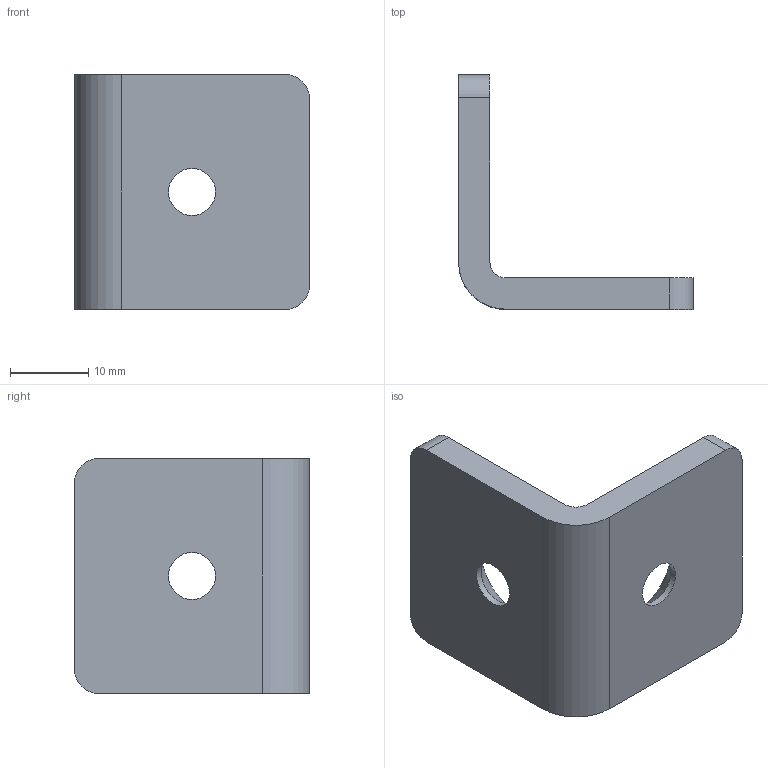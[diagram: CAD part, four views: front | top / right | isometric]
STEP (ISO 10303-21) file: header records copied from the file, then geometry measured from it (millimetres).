
FILE_DESCRIPTION( ( 'STEP AP203' ), '1' );
FILE_NAME( 'C:/Temp/Ganter_Step_05_03_2020/data/3_7/gn_967/gn_967_1/gn_967_1_l/Angle piece GN 967-30-30-L-1-ZB.stp', '2020-03-12T14:48:21', ( 'License CC BY-ND 4.0' ), ( 'CADENAS' ), ' ', 'PARTsolutions', ' ' );
FILE_SCHEMA( ( 'CONFIG_CONTROL_DESIGN' ) );
Length unit declared in the file: millimetre
Products named in the file (1): _Angle piece GN 967-30-30-L-1-ZB
Bounding box: 30 x 30 x 30 mm (x, y, z)
Volume: 6004.4 mm3; surface area: 3889.2 mm2
Topology: 1 solids, 1 shells, 18 faces, 46 edges, 30 vertices
Faces by surface type: cylinder 8, plane 8, cone 2
Full cylindrical faces by diameter (mm): 6 x2
Entity records: 584 total; most frequent: DIRECTION 98, CARTESIAN_POINT 91, ORIENTED_EDGE 84, EDGE_CURVE 42, AXIS2_PLACEMENT_3D 37, VERTEX_POINT 30, EDGE_LOOP 26, LINE 24
